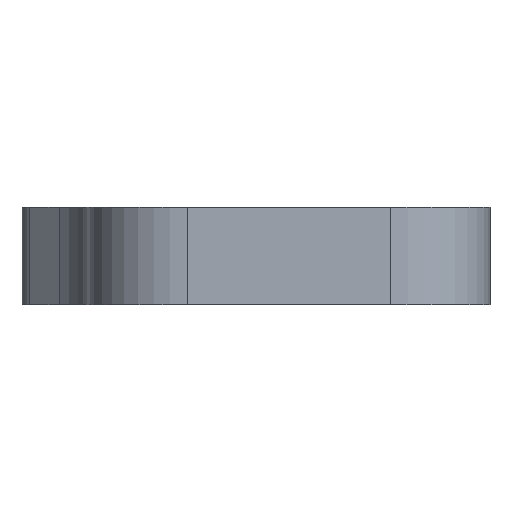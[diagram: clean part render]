
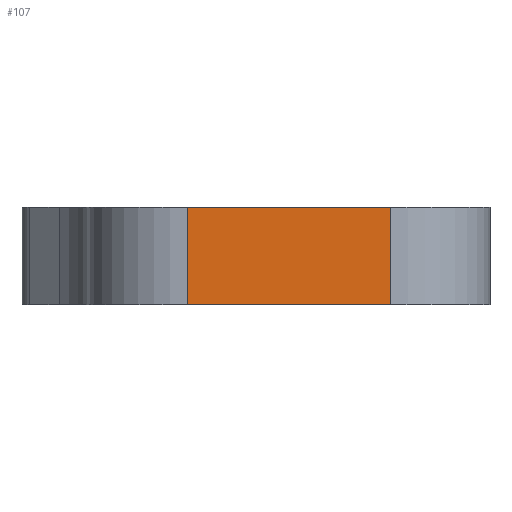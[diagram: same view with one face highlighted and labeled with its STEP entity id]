
A CAD part, front view. The second image highlights one B-rep face of the part: STEP entity #107.
In plain terms, the highlighted planar face has unit normal (0, -1, 0).
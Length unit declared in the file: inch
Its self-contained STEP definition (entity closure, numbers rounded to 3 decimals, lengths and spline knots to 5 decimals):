
#1 = VECTOR ( 'NONE', #644, 39.37008 ) ;
#86 = AXIS2_PLACEMENT_3D ( 'NONE', #834, #2382, #1490 ) ;
#107 = ADVANCED_FACE ( 'NONE', ( #1051 ), #2140, .F. ) ;
#202 = EDGE_LOOP ( 'NONE', ( #2352, #1774, #427, #1139 ) ) ;
#427 = ORIENTED_EDGE ( 'NONE', *, *, #1890, .F. ) ;
#605 = VECTOR ( 'NONE', #2458, 39.37008 ) ;
#628 = LINE ( 'NONE', #1064, #1 ) ;
#644 = DIRECTION ( 'NONE',  ( 1., 0., 0. ) ) ;
#720 = CARTESIAN_POINT ( 'NONE',  ( 0., -0.24409, 0.12008 ) ) ;
#776 = EDGE_CURVE ( 'NONE', #1616, #887, #2755, .T. ) ;
#834 = CARTESIAN_POINT ( 'NONE',  ( -0.24409, -0.24409, 0.12008 ) ) ;
#887 = VERTEX_POINT ( 'NONE', #2344 ) ;
#1051 = FACE_OUTER_BOUND ( 'NONE', #202, .T. ) ;
#1064 = CARTESIAN_POINT ( 'NONE',  ( -0.24409, -0.24409, -0.12008 ) ) ;
#1139 = ORIENTED_EDGE ( 'NONE', *, *, #776, .T. ) ;
#1274 = VECTOR ( 'NONE', #2484, 39.37008 ) ;
#1424 = CARTESIAN_POINT ( 'NONE',  ( 0., -0.24409, 0.12008 ) ) ;
#1490 = DIRECTION ( 'NONE',  ( -1., 0., 0. ) ) ;
#1492 = EDGE_CURVE ( 'NONE', #1649, #1628, #2701, .T. ) ;
#1556 = CARTESIAN_POINT ( 'NONE',  ( -0.24409, -0.24409, 0.12008 ) ) ;
#1585 = CARTESIAN_POINT ( 'NONE',  ( 0.5, -0.24409, 0.12008 ) ) ;
#1616 = VERTEX_POINT ( 'NONE', #1424 ) ;
#1628 = VERTEX_POINT ( 'NONE', #2733 ) ;
#1649 = VERTEX_POINT ( 'NONE', #1917 ) ;
#1774 = ORIENTED_EDGE ( 'NONE', *, *, #1492, .T. ) ;
#1785 = VECTOR ( 'NONE', #2065, 39.37008 ) ;
#1890 = EDGE_CURVE ( 'NONE', #1616, #1628, #2268, .T. ) ;
#1917 = CARTESIAN_POINT ( 'NONE',  ( 0.5, -0.24409, -0.12008 ) ) ;
#2065 = DIRECTION ( 'NONE',  ( 0., 0., -1. ) ) ;
#2140 = PLANE ( 'NONE',  #86 ) ;
#2268 = LINE ( 'NONE', #1556, #605 ) ;
#2344 = CARTESIAN_POINT ( 'NONE',  ( 0., -0.24409, -0.12008 ) ) ;
#2352 = ORIENTED_EDGE ( 'NONE', *, *, #2900, .T. ) ;
#2382 = DIRECTION ( 'NONE',  ( 0., 1., 0. ) ) ;
#2458 = DIRECTION ( 'NONE',  ( 1., 0., 0. ) ) ;
#2484 = DIRECTION ( 'NONE',  ( 0., 0., 1. ) ) ;
#2701 = LINE ( 'NONE', #1585, #1274 ) ;
#2733 = CARTESIAN_POINT ( 'NONE',  ( 0.5, -0.24409, 0.12008 ) ) ;
#2755 = LINE ( 'NONE', #720, #1785 ) ;
#2900 = EDGE_CURVE ( 'NONE', #887, #1649, #628, .T. ) ;
